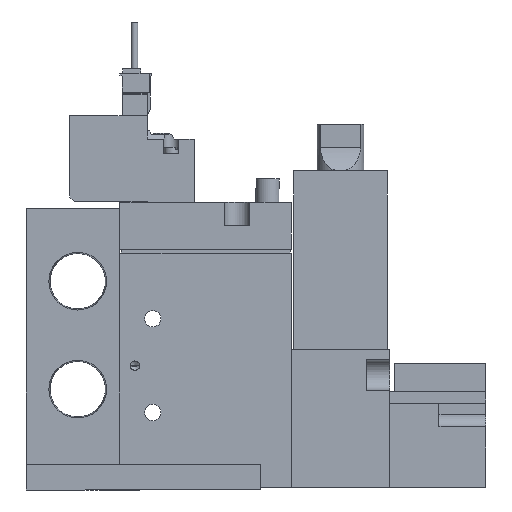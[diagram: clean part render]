
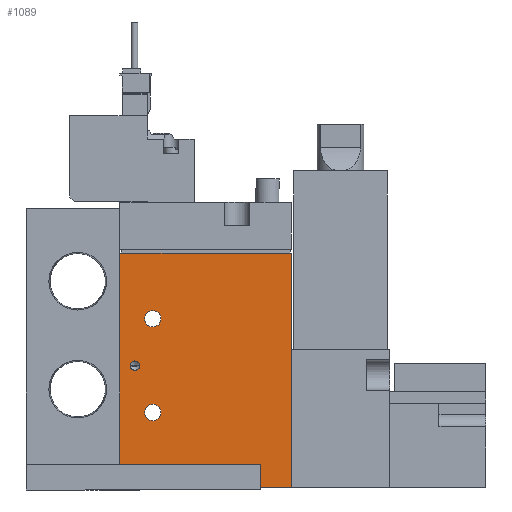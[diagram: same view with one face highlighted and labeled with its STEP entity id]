
A CAD part, left-side view. The second image highlights one B-rep face of the part: STEP entity #1089.
In plain terms, the highlighted planar face has unit normal (-1, 0, 0) as drawn and (1, 0, 0) by its records, which use the part's own axes.
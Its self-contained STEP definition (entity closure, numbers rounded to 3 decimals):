
#1089=ADVANCED_FACE('',(#1692,#1693,#1694,#1695),#1696,.F.);
#1692=FACE_BOUND('',#2609,.T.);
#1693=FACE_BOUND('',#2610,.T.);
#1694=FACE_BOUND('',#2611,.T.);
#1695=FACE_OUTER_BOUND('',#2612,.T.);
#1696=PLANE('',#2613);
#2609=EDGE_LOOP('',(#4042));
#2610=EDGE_LOOP('',(#4043));
#2611=EDGE_LOOP('',(#4044));
#2612=EDGE_LOOP('',(#4045,#4046,#4047,#4048));
#2613=AXIS2_PLACEMENT_3D('',#4049,#4050,#4051);
#4042=ORIENTED_EDGE('',*,*,#6405,.F.);
#4043=ORIENTED_EDGE('',*,*,#6392,.T.);
#4044=ORIENTED_EDGE('',*,*,#6388,.T.);
#4045=ORIENTED_EDGE('',*,*,#6412,.T.);
#4046=ORIENTED_EDGE('',*,*,#6413,.F.);
#4047=ORIENTED_EDGE('',*,*,#6402,.F.);
#4048=ORIENTED_EDGE('',*,*,#6409,.T.);
#4049=CARTESIAN_POINT('',(8.5,-19.444,50.0));
#4050=DIRECTION('',(-1.0,0.0,0.0));
#4051=DIRECTION('',(0.0,0.0,1.0));
#6388=EDGE_CURVE('',#7464,#7464,#7465,.T.);
#6392=EDGE_CURVE('',#7470,#7470,#7471,.T.);
#6402=EDGE_CURVE('',#7488,#7490,#7491,.T.);
#6405=EDGE_CURVE('',#7495,#7495,#7496,.T.);
#6409=EDGE_CURVE('',#7488,#7501,#7503,.T.);
#6412=EDGE_CURVE('',#7501,#7504,#7506,.T.);
#6413=EDGE_CURVE('',#7490,#7504,#7507,.T.);
#7464=VERTEX_POINT('',#9224);
#7465=CIRCLE('',#9225,1.75);
#7470=VERTEX_POINT('',#9230);
#7471=CIRCLE('',#9231,1.75);
#7488=VERTEX_POINT('',#9252);
#7490=VERTEX_POINT('',#9255);
#7491=LINE('',#9256,#9257);
#7495=VERTEX_POINT('',#9262);
#7496=CIRCLE('',#9263,1.0);
#7501=VERTEX_POINT('',#9268);
#7503=LINE('',#9271,#9272);
#7504=VERTEX_POINT('',#9273);
#7506=LINE('',#9276,#9277);
#7507=LINE('',#9278,#9279);
#9224=CARTESIAN_POINT('',(8.5,-10.694,16.0));
#9225=AXIS2_PLACEMENT_3D('',#11317,#11318,#11319);
#9230=CARTESIAN_POINT('',(8.5,-10.694,36.0));
#9231=AXIS2_PLACEMENT_3D('',#11326,#11327,#11328);
#9252=CARTESIAN_POINT('',(8.5,-19.444,50.0));
#9255=CARTESIAN_POINT('',(8.5,17.056,50.0));
#9256=CARTESIAN_POINT('',(8.5,-19.444,50.0));
#9257=VECTOR('',#11346,1.0);
#9262=CARTESIAN_POINT('',(8.5,-17.244,26.0));
#9263=AXIS2_PLACEMENT_3D('',#11351,#11352,#11353);
#9268=CARTESIAN_POINT('',(8.5,-19.444,0.0));
#9271=CARTESIAN_POINT('',(8.5,-19.444,50.0));
#9272=VECTOR('',#11361,1.0);
#9273=CARTESIAN_POINT('',(8.5,17.056,0.0));
#9276=CARTESIAN_POINT('',(8.5,-19.444,0.0));
#9277=VECTOR('',#11363,1.0);
#9278=CARTESIAN_POINT('',(8.5,17.056,50.0));
#9279=VECTOR('',#11364,1.0);
#11317=CARTESIAN_POINT('',(8.5,-12.444,16.0));
#11318=DIRECTION('',(-1.0,0.0,0.0));
#11319=DIRECTION('',(0.0,1.0,0.0));
#11326=CARTESIAN_POINT('',(8.5,-12.444,36.0));
#11327=DIRECTION('',(-1.0,0.0,0.0));
#11328=DIRECTION('',(0.0,1.0,0.0));
#11346=DIRECTION('',(0.0,1.0,0.0));
#11351=CARTESIAN_POINT('',(8.5,-16.244,26.0));
#11352=DIRECTION('',(1.0,0.,0.0));
#11353=DIRECTION('',(0.,-1.0,0.0));
#11361=DIRECTION('',(0.0,0.0,-1.0));
#11363=DIRECTION('',(0.0,1.0,0.0));
#11364=DIRECTION('',(0.0,0.0,-1.0));
